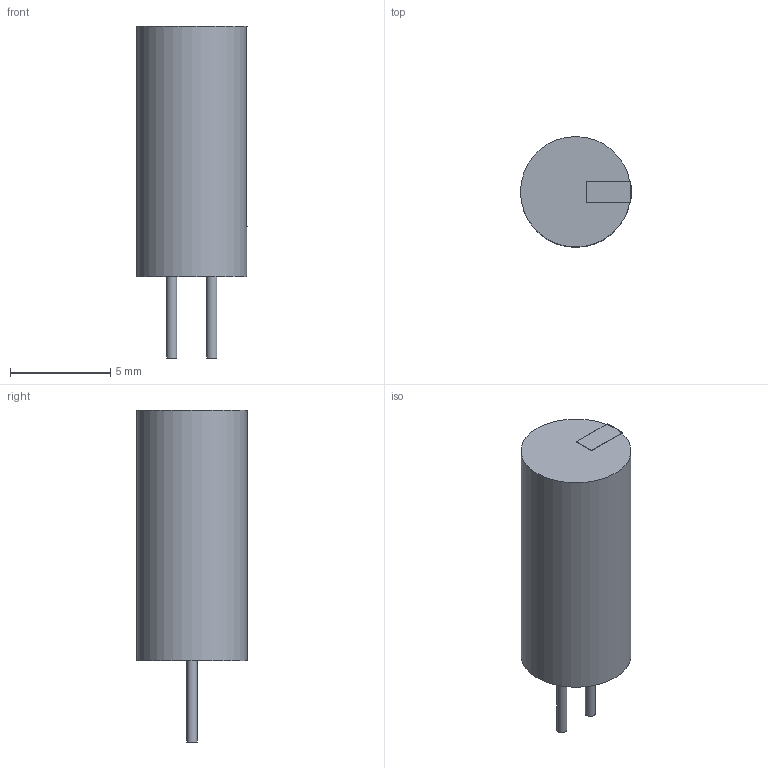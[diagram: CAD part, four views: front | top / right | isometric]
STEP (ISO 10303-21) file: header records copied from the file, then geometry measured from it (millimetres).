
FILE_DESCRIPTION(('STEP AP214'),'1');
FILE_NAME('CAP_YX_5X11_RUB','2025-10-01T04:56:05',(''),(''),'','','');
FILE_SCHEMA(('AUTOMOTIVE_DESIGN'));
Length unit declared in the file: millimetre
Products named in the file (1): product
Bounding box: 5.54 x 5.51 x 16.58 mm (x, y, z)
Volume: 300.2 mm3; surface area: 305 mm2
Topology: 4 solids, 4 shells, 17 faces, 27 edges, 18 vertices
Faces by surface type: plane 12, cylinder 5
Full cylindrical faces by diameter (mm): 0.508 x2, 5.512 x1
Entity records: 552 total; most frequent: DIRECTION 76, CARTESIAN_POINT 48, ORIENTED_EDGE 48, AXIS2_PLACEMENT_3D 31, EDGE_CURVE 24, EDGE_LOOP 20, VERTEX_POINT 18, PRESENTATION_STYLE_ASSIGNMENT 17
